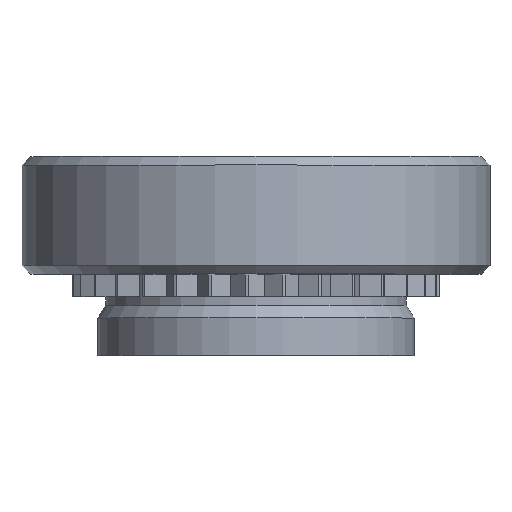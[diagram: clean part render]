
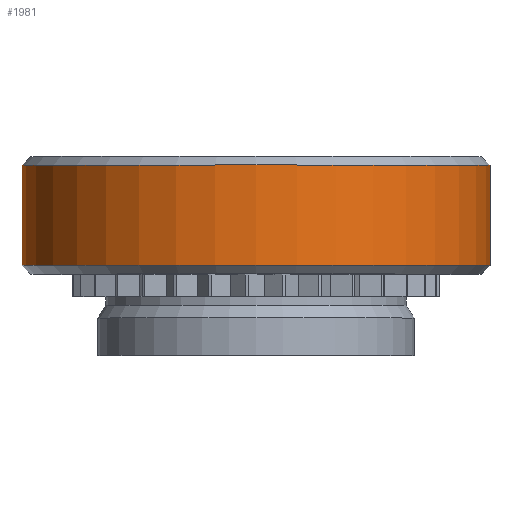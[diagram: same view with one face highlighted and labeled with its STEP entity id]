
A CAD part, top view. The second image highlights one B-rep face of the part: STEP entity #1981.
In plain terms, the highlighted cylindrical face has radius 3.975 mm (diameter 7.95 mm), a full revolution.
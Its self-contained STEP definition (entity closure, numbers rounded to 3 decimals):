
#85=CYLINDRICAL_SURFACE('',#2113,3.975);
#121=FACE_OUTER_BOUND('',#227,.T.);
#227=EDGE_LOOP('',(#1374,#1375,#1376,#1377,#1378,#1379));
#337=LINE('',#2897,#563);
#563=VECTOR('',#2305,3.975);
#789=CIRCLE('',#2111,3.975);
#790=CIRCLE('',#2112,3.975);
#791=CIRCLE('',#2114,3.975);
#792=CIRCLE('',#2115,3.975);
#866=VERTEX_POINT('',#2890);
#867=VERTEX_POINT('',#2892);
#868=VERTEX_POINT('',#2896);
#869=VERTEX_POINT('',#2898);
#1068=EDGE_CURVE('',#866,#867,#789,.T.);
#1069=EDGE_CURVE('',#867,#866,#790,.T.);
#1070=EDGE_CURVE('',#867,#868,#337,.T.);
#1071=EDGE_CURVE('',#869,#868,#791,.T.);
#1072=EDGE_CURVE('',#868,#869,#792,.T.);
#1374=ORIENTED_EDGE('',*,*,#1068,.F.);
#1375=ORIENTED_EDGE('',*,*,#1069,.F.);
#1376=ORIENTED_EDGE('',*,*,#1070,.T.);
#1377=ORIENTED_EDGE('',*,*,#1071,.F.);
#1378=ORIENTED_EDGE('',*,*,#1072,.F.);
#1379=ORIENTED_EDGE('',*,*,#1070,.F.);
#1981=ADVANCED_FACE('',(#121),#85,.T.);
#2111=AXIS2_PLACEMENT_3D('',#2893,#2299,#2300);
#2112=AXIS2_PLACEMENT_3D('',#2894,#2301,#2302);
#2113=AXIS2_PLACEMENT_3D('',#2895,#2303,#2304);
#2114=AXIS2_PLACEMENT_3D('',#2899,#2306,#2307);
#2115=AXIS2_PLACEMENT_3D('',#2900,#2308,#2309);
#2299=DIRECTION('center_axis',(0.,1.,0.));
#2300=DIRECTION('ref_axis',(1.,0.,0.));
#2301=DIRECTION('center_axis',(0.,1.,0.));
#2302=DIRECTION('ref_axis',(1.,0.,0.));
#2303=DIRECTION('center_axis',(0.,1.,0.));
#2304=DIRECTION('ref_axis',(-1.,0.,0.));
#2305=DIRECTION('',(0.,-1.,0.));
#2306=DIRECTION('center_axis',(0.,-1.,0.));
#2307=DIRECTION('ref_axis',(1.,0.,0.));
#2308=DIRECTION('center_axis',(0.,-1.,0.));
#2309=DIRECTION('ref_axis',(1.,0.,0.));
#2890=CARTESIAN_POINT('',(-3.975,3.23,0.));
#2892=CARTESIAN_POINT('',(3.975,3.23,0.));
#2893=CARTESIAN_POINT('Origin',(0.,3.23,0.));
#2894=CARTESIAN_POINT('Origin',(0.,3.23,0.));
#2895=CARTESIAN_POINT('Origin',(0.,2.38,0.));
#2896=CARTESIAN_POINT('',(3.975,1.53,0.));
#2897=CARTESIAN_POINT('',(3.975,2.38,0.));
#2898=CARTESIAN_POINT('',(-3.975,1.53,0.));
#2899=CARTESIAN_POINT('Origin',(0.,1.53,0.));
#2900=CARTESIAN_POINT('Origin',(0.,1.53,0.));
